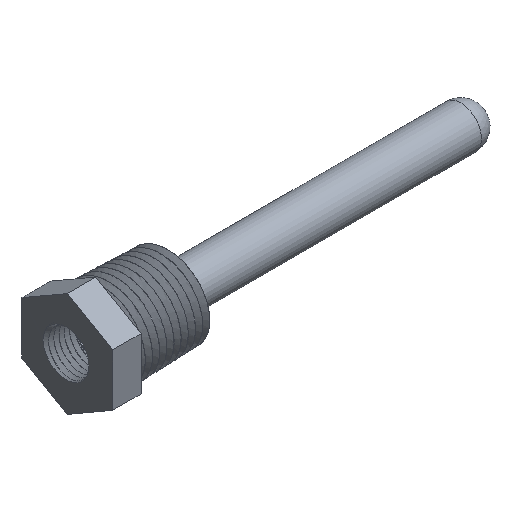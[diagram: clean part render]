
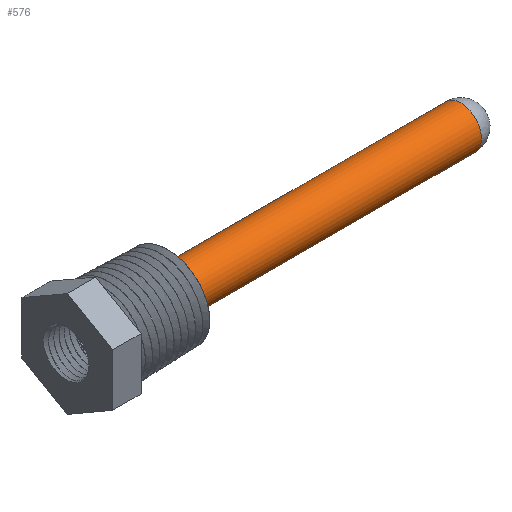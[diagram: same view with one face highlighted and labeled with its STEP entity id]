
A CAD part, isometric view. The second image highlights one B-rep face of the part: STEP entity #576.
In plain terms, the highlighted cylindrical face has radius 5.08 mm (diameter 10.16 mm), a full revolution.
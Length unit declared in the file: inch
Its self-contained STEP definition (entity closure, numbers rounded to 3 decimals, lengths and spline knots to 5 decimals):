
#20=CYLINDRICAL_SURFACE('',#644,0.2);
#59=FACE_OUTER_BOUND('',#91,.T.);
#91=EDGE_LOOP('',(#462,#463,#464,#465,#466));
#118=CIRCLE('',#641,0.2);
#120=CIRCLE('',#643,0.2);
#121=CIRCLE('',#645,0.2);
#173=LINE('',#4470,#205);
#205=VECTOR('',#740,0.2);
#264=VERTEX_POINT('',#4462);
#265=VERTEX_POINT('',#4463);
#267=VERTEX_POINT('',#4469);
#340=EDGE_CURVE('',#264,#265,#118,.T.);
#342=EDGE_CURVE('',#265,#264,#120,.T.);
#343=EDGE_CURVE('',#264,#267,#173,.T.);
#344=EDGE_CURVE('',#267,#267,#121,.T.);
#462=ORIENTED_EDGE('',*,*,#340,.F.);
#463=ORIENTED_EDGE('',*,*,#343,.T.);
#464=ORIENTED_EDGE('',*,*,#344,.T.);
#465=ORIENTED_EDGE('',*,*,#343,.F.);
#466=ORIENTED_EDGE('',*,*,#342,.F.);
#576=ADVANCED_FACE('',(#59),#20,.T.);
#641=AXIS2_PLACEMENT_3D('',#4464,#732,#733);
#643=AXIS2_PLACEMENT_3D('',#4467,#736,#737);
#644=AXIS2_PLACEMENT_3D('',#4468,#738,#739);
#645=AXIS2_PLACEMENT_3D('',#4471,#741,#742);
#732=DIRECTION('center_axis',(1.,0.,0.));
#733=DIRECTION('ref_axis',(0.,-0.5,0.866));
#736=DIRECTION('center_axis',(1.,0.,0.));
#737=DIRECTION('ref_axis',(0.,-0.5,0.866));
#738=DIRECTION('center_axis',(1.,0.,0.));
#739=DIRECTION('ref_axis',(0.,-0.5,0.866));
#740=DIRECTION('',(-1.,0.,0.));
#741=DIRECTION('center_axis',(1.,0.,0.));
#742=DIRECTION('ref_axis',(0.,-0.866,0.5));
#4462=CARTESIAN_POINT('',(4.71189,1.57872,-0.61071));
#4463=CARTESIAN_POINT('',(4.71189,1.27872,-0.4375));
#4464=CARTESIAN_POINT('Origin',(4.71189,1.47872,-0.4375));
#4467=CARTESIAN_POINT('Origin',(4.71189,1.47872,-0.4375));
#4468=CARTESIAN_POINT('Origin',(3.31189,1.47872,-0.4375));
#4469=CARTESIAN_POINT('',(1.91189,1.57872,-0.61071));
#4470=CARTESIAN_POINT('',(3.31189,1.57872,-0.61071));
#4471=CARTESIAN_POINT('Origin',(1.91189,1.47872,-0.4375));
